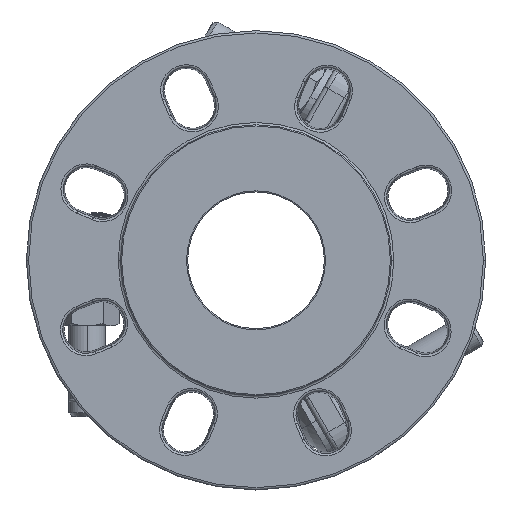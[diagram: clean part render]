
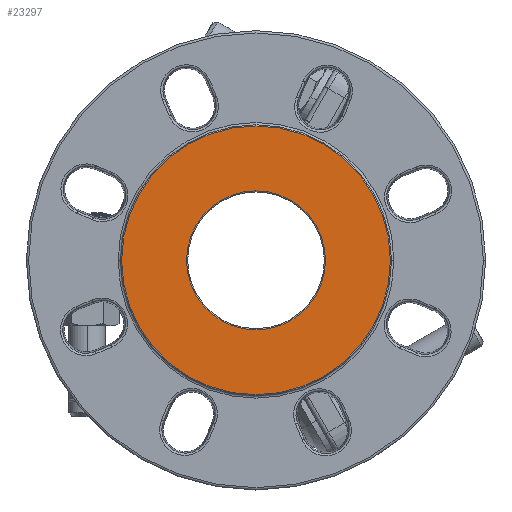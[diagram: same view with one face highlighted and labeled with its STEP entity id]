
A CAD part, left-side view. The second image highlights one B-rep face of the part: STEP entity #23297.
In plain terms, the highlighted planar face has unit normal (-1, 0, 0).
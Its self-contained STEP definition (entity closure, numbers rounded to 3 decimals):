
#4986=CARTESIAN_POINT('',(-20.339,0.,0.));
#4987=DIRECTION('',(-1.,0.,0.));
#4988=DIRECTION('',(0.,-1.,0.));
#4989=AXIS2_PLACEMENT_3D('',#4986,#4987,#4988);
#4991=CARTESIAN_POINT('',(-20.339,0.,0.));
#4992=DIRECTION('',(-1.,0.,0.));
#4993=DIRECTION('',(0.,1.,0.));
#4994=AXIS2_PLACEMENT_3D('',#4991,#4992,#4993);
#4996=CARTESIAN_POINT('',(-20.339,0.,0.));
#4997=DIRECTION('',(1.,0.,0.));
#4998=DIRECTION('',(0.,-1.,0.));
#4999=AXIS2_PLACEMENT_3D('',#4996,#4997,#4998);
#5001=CARTESIAN_POINT('',(-20.339,0.,0.));
#5002=DIRECTION('',(1.,0.,0.));
#5003=DIRECTION('',(0.,1.,0.));
#5004=AXIS2_PLACEMENT_3D('',#5001,#5002,#5003);
#16590=CARTESIAN_POINT('',(-20.339,-30.25,0.));
#16591=CARTESIAN_POINT('',(-20.339,30.25,0.));
#16592=VERTEX_POINT('',#16590);
#16593=VERTEX_POINT('',#16591);
#16598=CARTESIAN_POINT('',(-20.339,-58.509,
0.));
#16599=CARTESIAN_POINT('',(-20.339,58.509,
0.));
#16600=VERTEX_POINT('',#16598);
#16601=VERTEX_POINT('',#16599);
#23282=CARTESIAN_POINT('',(-20.339,0.,0.));
#23283=DIRECTION('',(1.,0.,0.));
#23284=DIRECTION('',(0.,-1.,0.));
#23285=AXIS2_PLACEMENT_3D('',#23282,#23283,#23284);
#23286=PLANE('',#23285);
#23287=ORIENTED_EDGE('',*,*,#23249,.T.);
#23288=ORIENTED_EDGE('',*,*,#23264,.T.);
#23289=EDGE_LOOP('',(#23287,#23288));
#23290=FACE_OUTER_BOUND('',#23289,.F.);
#23292=ORIENTED_EDGE('',*,*,#23291,.T.);
#23294=ORIENTED_EDGE('',*,*,#23293,.T.);
#23295=EDGE_LOOP('',(#23292,#23294));
#23296=FACE_BOUND('',#23295,.F.);
#23297=ADVANCED_FACE('',(#23290,#23296),#23286,.F.);
#4990=CIRCLE('',#4989,30.25);
#4995=CIRCLE('',#4994,30.25);
#5000=CIRCLE('',#4999,58.509);
#5005=CIRCLE('',#5004,58.509);
#23249=EDGE_CURVE('',#16600,#16601,#5000,.T.);
#23264=EDGE_CURVE('',#16601,#16600,#5005,.T.);
#23291=EDGE_CURVE('',#16592,#16593,#4990,.T.);
#23293=EDGE_CURVE('',#16593,#16592,#4995,.T.);
